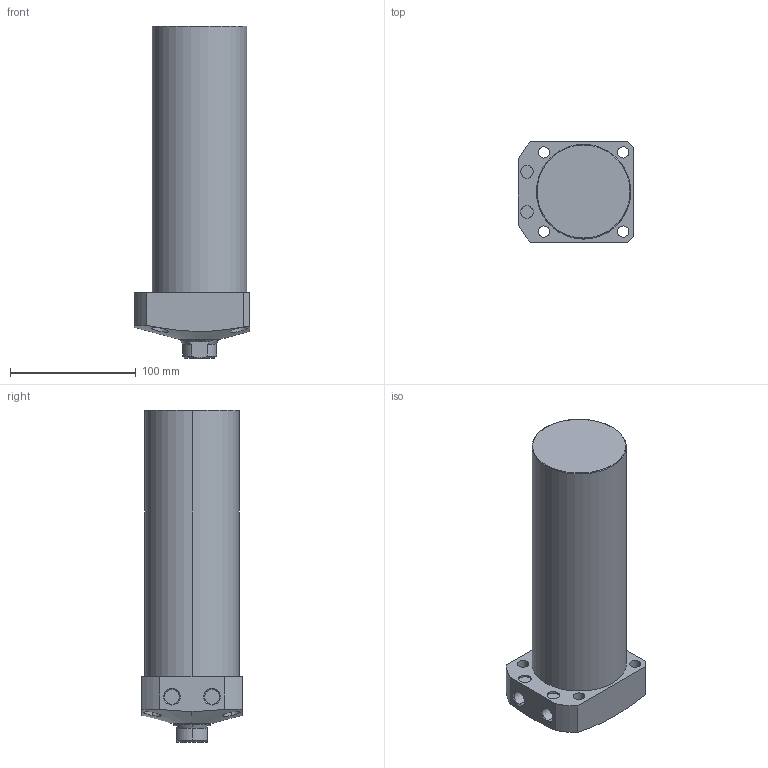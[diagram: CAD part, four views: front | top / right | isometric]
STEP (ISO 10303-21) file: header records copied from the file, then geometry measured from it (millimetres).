
FILE_DESCRIPTION (( 'STEP AP203' ), '1' );
FILE_NAME ('CLL-075CA-175.STEP', '2019-12-23T09:01:43', ( '' ), ( '' ), 'SwSTEP 2.0', 'SolidWorks 2015', '' );
FILE_SCHEMA (( 'CONFIG_CONTROL_DESIGN' ));
Length unit declared in the file: millimetre
Products named in the file (1): CLL-075CA-175
Bounding box: 92 x 80 x 264 mm (x, y, z)
Volume: 1155645.3 mm3; surface area: 82285.7 mm2
Topology: 1 solids, 1 shells, 74 faces, 171 edges, 108 vertices
Faces by surface type: cylinder 35, plane 22, cone 15, torus 2
Entity records: 2610 total; most frequent: CARTESIAN_POINT 815, DIRECTION 376, ORIENTED_EDGE 338, EDGE_CURVE 169, AXIS2_PLACEMENT_3D 156, VERTEX_POINT 108, EDGE_LOOP 93, CIRCLE 81
